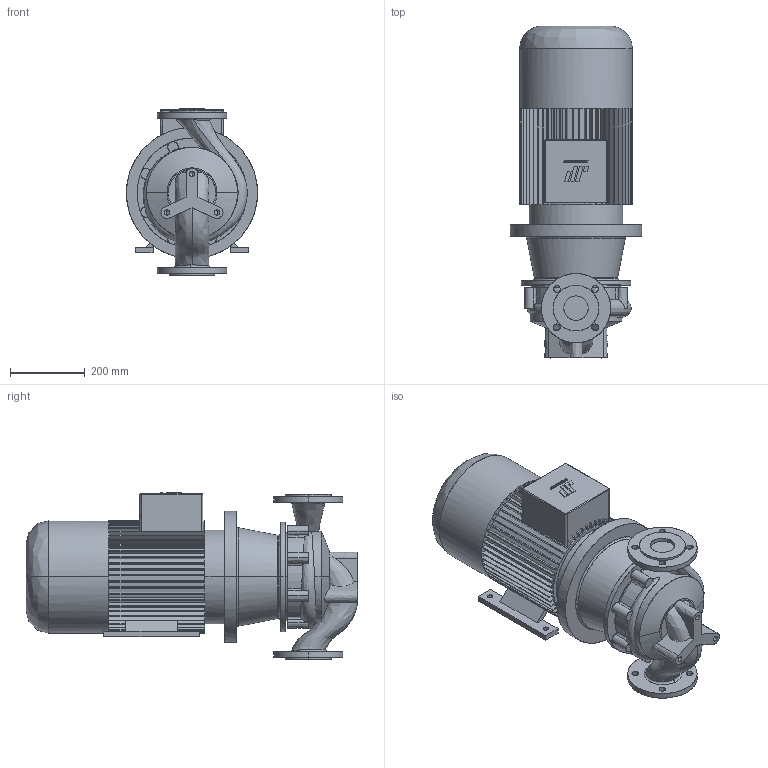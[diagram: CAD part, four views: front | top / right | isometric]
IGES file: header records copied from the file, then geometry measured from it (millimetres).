
Start section: CombiLine
Global section: file name: CLB_65-200_IEC160M_ND10.igs; native system:  By UGS Corp.; preprocessor: XPlus GENERIC/IGES 3.0; author: Stageplaats; organization: Johnson Pump Water B.V.; date: 20070716.134149; units: millimetre
Bounding box: 350 x 885.5 x 445 mm (x, y, z)
Surface area: 1699449.3 mm2 (no closed solid volume)
Topology: 0 solids, 0 shells, 582 faces, 3526 edges, 3520 vertices
Faces by surface type: bspline 582
